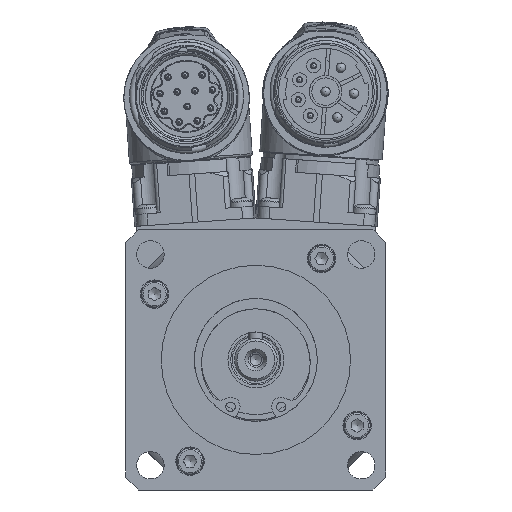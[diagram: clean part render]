
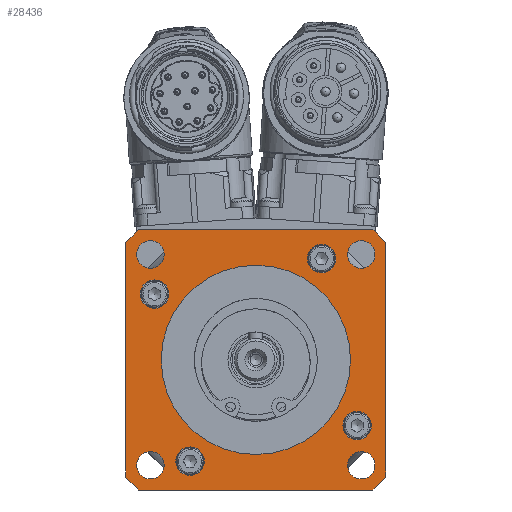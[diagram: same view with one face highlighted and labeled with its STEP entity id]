
A CAD part, left-side view. The second image highlights one B-rep face of the part: STEP entity #28436.
In plain terms, the highlighted planar face has unit normal (-1, 0, 0).
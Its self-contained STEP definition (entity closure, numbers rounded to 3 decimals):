
#4179=FACE_BOUND('',#9237,.T.);
#4180=FACE_BOUND('',#9238,.T.);
#4181=FACE_BOUND('',#9239,.T.);
#4182=FACE_BOUND('',#9240,.T.);
#4183=FACE_BOUND('',#9241,.T.);
#4184=FACE_BOUND('',#9242,.T.);
#4185=FACE_BOUND('',#9243,.T.);
#4186=FACE_BOUND('',#9244,.T.);
#4187=FACE_BOUND('',#9245,.T.);
#4623=LINE('',#42535,#5990);
#4625=LINE('',#42538,#5992);
#4635=LINE('',#42625,#6002);
#4638=LINE('',#42632,#6005);
#5990=VECTOR('',#34183,10.);
#5992=VECTOR('',#34187,10.);
#6002=VECTOR('',#34283,10.);
#6005=VECTOR('',#34292,10.);
#7392=FACE_OUTER_BOUND('',#9236,.T.);
#9236=EDGE_LOOP('',(#19960,#19961,#19962,#19963,#19964,#19965,#19966,#19967));
#9237=EDGE_LOOP('',(#19968));
#9238=EDGE_LOOP('',(#19969));
#9239=EDGE_LOOP('',(#19970));
#9240=EDGE_LOOP('',(#19971));
#9241=EDGE_LOOP('',(#19972));
#9242=EDGE_LOOP('',(#19973));
#9243=EDGE_LOOP('',(#19974));
#9244=EDGE_LOOP('',(#19975));
#9245=EDGE_LOOP('',(#19976));
#11454=CIRCLE('',#30560,37.);
#11455=CIRCLE('',#30562,37.);
#11456=CIRCLE('',#30566,2.9);
#11457=CIRCLE('',#30568,2.9);
#11458=CIRCLE('',#30570,2.9);
#11459=CIRCLE('',#30572,2.9);
#11461=CIRCLE('',#30576,3.);
#11466=CIRCLE('',#30584,3.);
#11471=CIRCLE('',#30592,3.);
#11476=CIRCLE('',#30600,3.);
#11480=CIRCLE('',#30606,37.);
#11481=CIRCLE('',#30609,37.);
#11482=CIRCLE('',#30612,20.);
#13145=VERTEX_POINT('',#42522);
#13146=VERTEX_POINT('',#42523);
#13147=VERTEX_POINT('',#42528);
#13148=VERTEX_POINT('',#42529);
#13149=VERTEX_POINT('',#42534);
#13150=VERTEX_POINT('',#42540);
#13151=VERTEX_POINT('',#42543);
#13152=VERTEX_POINT('',#42546);
#13153=VERTEX_POINT('',#42549);
#13155=VERTEX_POINT('',#42555);
#13162=VERTEX_POINT('',#42572);
#13169=VERTEX_POINT('',#42589);
#13176=VERTEX_POINT('',#42606);
#13182=VERTEX_POINT('',#42620);
#13183=VERTEX_POINT('',#42624);
#13184=VERTEX_POINT('',#42628);
#13185=VERTEX_POINT('',#42634);
#15786=EDGE_CURVE('',#13145,#13146,#11454,.T.);
#15789=EDGE_CURVE('',#13147,#13148,#11455,.T.);
#15792=EDGE_CURVE('',#13149,#13147,#4623,.T.);
#15794=EDGE_CURVE('',#13148,#13145,#4625,.T.);
#15795=EDGE_CURVE('',#13150,#13150,#11456,.T.);
#15796=EDGE_CURVE('',#13151,#13151,#11457,.T.);
#15797=EDGE_CURVE('',#13152,#13152,#11458,.T.);
#15798=EDGE_CURVE('',#13153,#13153,#11459,.T.);
#15800=EDGE_CURVE('',#13155,#13155,#11461,.T.);
#15807=EDGE_CURVE('',#13162,#13162,#11466,.T.);
#15814=EDGE_CURVE('',#13169,#13169,#11471,.T.);
#15821=EDGE_CURVE('',#13176,#13176,#11476,.T.);
#15827=EDGE_CURVE('',#13182,#13149,#11480,.T.);
#15829=EDGE_CURVE('',#13183,#13182,#4635,.T.);
#15831=EDGE_CURVE('',#13184,#13183,#11481,.T.);
#15833=EDGE_CURVE('',#13146,#13184,#4638,.T.);
#15834=EDGE_CURVE('',#13185,#13185,#11482,.T.);
#19960=ORIENTED_EDGE('',*,*,#15792,.F.);
#19961=ORIENTED_EDGE('',*,*,#15827,.F.);
#19962=ORIENTED_EDGE('',*,*,#15829,.F.);
#19963=ORIENTED_EDGE('',*,*,#15831,.F.);
#19964=ORIENTED_EDGE('',*,*,#15833,.F.);
#19965=ORIENTED_EDGE('',*,*,#15786,.F.);
#19966=ORIENTED_EDGE('',*,*,#15794,.F.);
#19967=ORIENTED_EDGE('',*,*,#15789,.F.);
#19968=ORIENTED_EDGE('',*,*,#15821,.F.);
#19969=ORIENTED_EDGE('',*,*,#15814,.F.);
#19970=ORIENTED_EDGE('',*,*,#15807,.F.);
#19971=ORIENTED_EDGE('',*,*,#15800,.F.);
#19972=ORIENTED_EDGE('',*,*,#15798,.F.);
#19973=ORIENTED_EDGE('',*,*,#15797,.F.);
#19974=ORIENTED_EDGE('',*,*,#15796,.F.);
#19975=ORIENTED_EDGE('',*,*,#15795,.F.);
#19976=ORIENTED_EDGE('',*,*,#15834,.F.);
#27886=PLANE('',#30611);
#28436=ADVANCED_FACE('',(#7392,#4179,#4180,#4181,#4182,#4183,#4184,#4185,
#4186,#4187),#27886,.F.);
#30560=AXIS2_PLACEMENT_3D('',#42524,#34171,#34172);
#30562=AXIS2_PLACEMENT_3D('',#42530,#34177,#34178);
#30566=AXIS2_PLACEMENT_3D('',#42541,#34190,#34191);
#30568=AXIS2_PLACEMENT_3D('',#42544,#34194,#34195);
#30570=AXIS2_PLACEMENT_3D('',#42547,#34198,#34199);
#30572=AXIS2_PLACEMENT_3D('',#42550,#34202,#34203);
#30576=AXIS2_PLACEMENT_3D('',#42556,#34210,#34211);
#30584=AXIS2_PLACEMENT_3D('',#42573,#34228,#34229);
#30592=AXIS2_PLACEMENT_3D('',#42590,#34246,#34247);
#30600=AXIS2_PLACEMENT_3D('',#42607,#34264,#34265);
#30606=AXIS2_PLACEMENT_3D('',#42621,#34278,#34279);
#30609=AXIS2_PLACEMENT_3D('',#42629,#34287,#34288);
#30611=AXIS2_PLACEMENT_3D('',#42633,#34293,#34294);
#30612=AXIS2_PLACEMENT_3D('',#42635,#34295,#34296);
#34171=DIRECTION('center_axis',(1.,0.,0.));
#34172=DIRECTION('ref_axis',(0.,0.,
1.));
#34177=DIRECTION('center_axis',(1.,0.,0.));
#34178=DIRECTION('ref_axis',(0.,0.,
1.));
#34183=DIRECTION('',(0.,-1.,0.));
#34187=DIRECTION('',(0.,0.,-1.));
#34190=DIRECTION('center_axis',(-1.,0.,0.));
#34191=DIRECTION('ref_axis',(0.,-1.,0.));
#34194=DIRECTION('center_axis',(-1.,0.,0.));
#34195=DIRECTION('ref_axis',(0.,0.,
-1.));
#34198=DIRECTION('center_axis',(-1.,0.,0.));
#34199=DIRECTION('ref_axis',(0.,1.,0.));
#34202=DIRECTION('center_axis',(-1.,0.,0.));
#34203=DIRECTION('ref_axis',(0.,0.,
1.));
#34210=DIRECTION('center_axis',(-1.,0.,0.));
#34211=DIRECTION('ref_axis',(0.,-1.,0.));
#34228=DIRECTION('center_axis',(-1.,0.,0.));
#34229=DIRECTION('ref_axis',(0.,0.,
-1.));
#34246=DIRECTION('center_axis',(-1.,0.,0.));
#34247=DIRECTION('ref_axis',(0.,1.,0.));
#34264=DIRECTION('center_axis',(-1.,0.,0.));
#34265=DIRECTION('ref_axis',(0.,0.,
1.));
#34278=DIRECTION('center_axis',(1.,0.,0.));
#34279=DIRECTION('ref_axis',(0.,0.,
1.));
#34283=DIRECTION('',(0.,0.,1.));
#34287=DIRECTION('center_axis',(1.,0.,0.));
#34288=DIRECTION('ref_axis',(0.,0.,
1.));
#34292=DIRECTION('',(0.,1.,0.));
#34293=DIRECTION('center_axis',(1.,0.,0.));
#34294=DIRECTION('ref_axis',(0.,0.,
-1.));
#34295=DIRECTION('center_axis',(-1.,0.,0.));
#34296=DIRECTION('ref_axis',(0.,0.,
1.));
#42522=CARTESIAN_POINT('',(-24.75,-27.5,-24.754));
#42523=CARTESIAN_POINT('',(-24.75,-24.754,-27.5));
#42524=CARTESIAN_POINT('Origin',(-24.75,0.,0.));
#42528=CARTESIAN_POINT('',(-24.75,-24.754,27.5));
#42529=CARTESIAN_POINT('',(-24.75,-27.5,24.754));
#42530=CARTESIAN_POINT('Origin',(-24.75,0.,0.));
#42534=CARTESIAN_POINT('',(-24.75,24.754,27.5));
#42535=CARTESIAN_POINT('',(-24.75,13.75,27.5));
#42538=CARTESIAN_POINT('',(-24.75,-27.5,38.704));
#42540=CARTESIAN_POINT('',(-24.75,25.174,22.274));
#42541=CARTESIAN_POINT('Origin',(-24.75,22.274,22.274));
#42543=CARTESIAN_POINT('',(-24.75,-22.274,25.174));
#42544=CARTESIAN_POINT('Origin',(-24.75,-22.274,22.274));
#42546=CARTESIAN_POINT('',(-24.75,-25.174,-22.274));
#42547=CARTESIAN_POINT('Origin',(-24.75,-22.274,-22.274));
#42549=CARTESIAN_POINT('',(-24.75,22.274,-25.174));
#42550=CARTESIAN_POINT('Origin',(-24.75,22.274,-22.274));
#42555=CARTESIAN_POINT('',(-24.75,-10.9,21.4));
#42556=CARTESIAN_POINT('Origin',(-24.75,-13.9,21.4));
#42572=CARTESIAN_POINT('',(-24.75,-21.4,-10.9));
#42573=CARTESIAN_POINT('Origin',(-24.75,-21.4,-13.9));
#42589=CARTESIAN_POINT('',(-24.75,10.9,-21.4));
#42590=CARTESIAN_POINT('Origin',(-24.75,13.9,-21.4));
#42606=CARTESIAN_POINT('',(-24.75,21.4,10.9));
#42607=CARTESIAN_POINT('Origin',(-24.75,21.4,13.9));
#42620=CARTESIAN_POINT('',(-24.75,27.5,24.754));
#42621=CARTESIAN_POINT('Origin',(-24.75,0.,0.));
#42624=CARTESIAN_POINT('',(-24.75,27.5,-24.754));
#42625=CARTESIAN_POINT('',(-24.75,27.5,11.204));
#42628=CARTESIAN_POINT('',(-24.75,24.754,-27.5));
#42629=CARTESIAN_POINT('Origin',(-24.75,0.,0.));
#42632=CARTESIAN_POINT('',(-24.75,-13.75,-27.5));
#42633=CARTESIAN_POINT('Origin',(-24.75,0.,49.909));
#42634=CARTESIAN_POINT('',(-24.75,0.,20.));
#42635=CARTESIAN_POINT('Origin',(-24.75,0.,0.));
